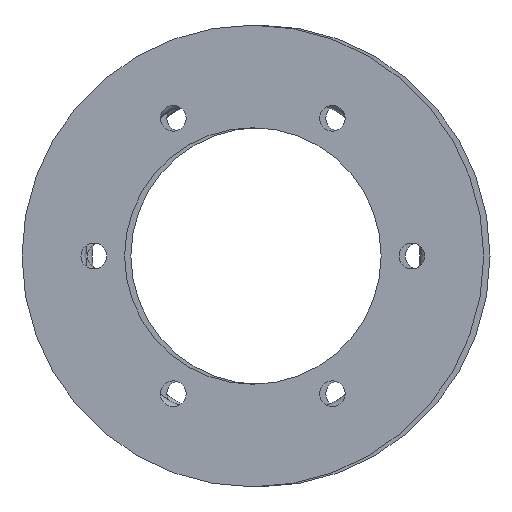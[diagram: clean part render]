
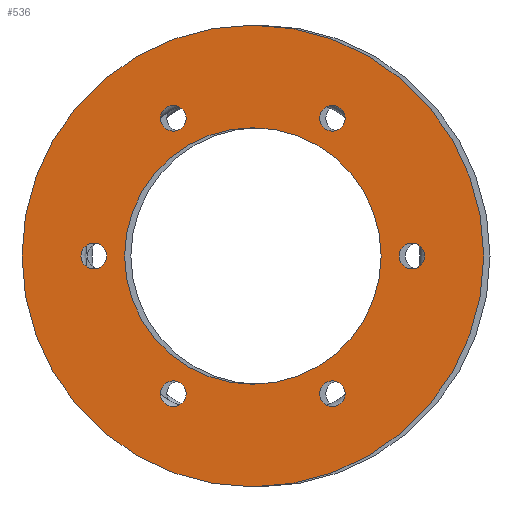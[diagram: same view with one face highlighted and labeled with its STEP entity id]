
A CAD part, left-side view. The second image highlights one B-rep face of the part: STEP entity #536.
In plain terms, the highlighted planar face has unit normal (-1, 0, 0).
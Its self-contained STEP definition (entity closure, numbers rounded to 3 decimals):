
#536 = ADVANCED_FACE( 'NONE', ( #793, #794, #795, #796, #797, #798, #799, #800 ), #801, .F. );
#793 = FACE_OUTER_BOUND( '', #915, .T. );
#794 = FACE_BOUND( '', #916, .T. );
#795 = FACE_BOUND( '', #917, .T. );
#796 = FACE_BOUND( '', #918, .T. );
#797 = FACE_BOUND( '', #919, .T. );
#798 = FACE_BOUND( '', #920, .T. );
#799 = FACE_BOUND( '', #921, .T. );
#800 = FACE_BOUND( '', #922, .T. );
#801 = PLANE( '', #923 );
#915 = EDGE_LOOP( '', ( #1083 ) );
#916 = EDGE_LOOP( '', ( #1084 ) );
#917 = EDGE_LOOP( '', ( #1085 ) );
#918 = EDGE_LOOP( '', ( #1086 ) );
#919 = EDGE_LOOP( '', ( #1087 ) );
#920 = EDGE_LOOP( '', ( #1088 ) );
#921 = EDGE_LOOP( '', ( #1089 ) );
#922 = EDGE_LOOP( '', ( #1090 ) );
#923 = AXIS2_PLACEMENT_3D( '', #1091, #1092, #1093 );
#1083 = ORIENTED_EDGE( '', *, *, #1256, .T. );
#1084 = ORIENTED_EDGE( '', *, *, #1257, .F. );
#1085 = ORIENTED_EDGE( '', *, *, #1252, .F. );
#1086 = ORIENTED_EDGE( '', *, *, #1258, .F. );
#1087 = ORIENTED_EDGE( '', *, *, #1259, .F. );
#1088 = ORIENTED_EDGE( '', *, *, #1260, .F. );
#1089 = ORIENTED_EDGE( '', *, *, #1254, .F. );
#1090 = ORIENTED_EDGE( '', *, *, #1250, .F. );
#1091 = CARTESIAN_POINT( '', ( 0., 25., 0. ) );
#1092 = DIRECTION( '', ( 1., 0., 0. ) );
#1093 = DIRECTION( '', ( 0., 1., 0. ) );
#1250 = EDGE_CURVE( 'NONE', #1386, #1386, #1387, .T. );
#1252 = EDGE_CURVE( 'NONE', #1390, #1390, #1391, .T. );
#1254 = EDGE_CURVE( 'NONE', #1394, #1394, #1395, .T. );
#1256 = EDGE_CURVE( 'NONE', #1398, #1398, #1399, .T. );
#1257 = EDGE_CURVE( 'NONE', #1400, #1400, #1401, .T. );
#1258 = EDGE_CURVE( 'NONE', #1402, #1402, #1403, .T. );
#1259 = EDGE_CURVE( 'NONE', #1404, #1404, #1405, .T. );
#1260 = EDGE_CURVE( 'NONE', #1406, #1406, #1407, .T. );
#1386 = VERTEX_POINT( '', #1418 );
#1387 = CIRCLE( '', #1419, 2.5 );
#1390 = VERTEX_POINT( '', #1422 );
#1391 = CIRCLE( '', #1423, 2.5 );
#1394 = VERTEX_POINT( '', #1426 );
#1395 = CIRCLE( '', #1427, 2.5 );
#1398 = VERTEX_POINT( '', #1430 );
#1399 = CIRCLE( '', #1431, 45. );
#1400 = VERTEX_POINT( '', #1432 );
#1401 = CIRCLE( '', #1433, 2.5 );
#1402 = VERTEX_POINT( '', #1434 );
#1403 = CIRCLE( '', #1435, 2.5 );
#1404 = VERTEX_POINT( '', #1436 );
#1405 = CIRCLE( '', #1437, 2.5 );
#1406 = VERTEX_POINT( '', #1438 );
#1407 = CIRCLE( '', #1439, 25. );
#1418 = CARTESIAN_POINT( '', ( 0., 15.5, 29.347 ) );
#1419 = AXIS2_PLACEMENT_3D( '', #1450, #1451, #1452 );
#1422 = CARTESIAN_POINT( '', ( 0., -15.5, -24.347 ) );
#1423 = AXIS2_PLACEMENT_3D( '', #1456, #1457, #1458 );
#1426 = CARTESIAN_POINT( '', ( 0., -31., 2.5 ) );
#1427 = AXIS2_PLACEMENT_3D( '', #1462, #1463, #1464 );
#1430 = CARTESIAN_POINT( '', ( 0., 0., 45. ) );
#1431 = AXIS2_PLACEMENT_3D( '', #1468, #1469, #1470 );
#1432 = CARTESIAN_POINT( '', ( 0., -15.5, 29.347 ) );
#1433 = AXIS2_PLACEMENT_3D( '', #1471, #1472, #1473 );
#1434 = CARTESIAN_POINT( '', ( 0., 15.5, -24.347 ) );
#1435 = AXIS2_PLACEMENT_3D( '', #1474, #1475, #1476 );
#1436 = CARTESIAN_POINT( '', ( 0., 31., 2.5 ) );
#1437 = AXIS2_PLACEMENT_3D( '', #1477, #1478, #1479 );
#1438 = CARTESIAN_POINT( '', ( 0., 0., 25. ) );
#1439 = AXIS2_PLACEMENT_3D( '', #1480, #1481, #1482 );
#1450 = CARTESIAN_POINT( '', ( 0., 15.5, 26.847 ) );
#1451 = DIRECTION( '', ( -1., 0., 0. ) );
#1452 = DIRECTION( '', ( 0., 0., 1. ) );
#1456 = CARTESIAN_POINT( '', ( 0., -15.5, -26.847 ) );
#1457 = DIRECTION( '', ( -1., 0., 0. ) );
#1458 = DIRECTION( '', ( 0., 0., 1. ) );
#1462 = CARTESIAN_POINT( '', ( 0., -31., 0. ) );
#1463 = DIRECTION( '', ( -1., 0., 0. ) );
#1464 = DIRECTION( '', ( 0., 0., 1. ) );
#1468 = CARTESIAN_POINT( '', ( 0., 0., 0. ) );
#1469 = DIRECTION( '', ( -1., 0., 0. ) );
#1470 = DIRECTION( '', ( 0., 0., 1. ) );
#1471 = CARTESIAN_POINT( '', ( 0., -15.5, 26.847 ) );
#1472 = DIRECTION( '', ( -1., 0., 0. ) );
#1473 = DIRECTION( '', ( 0., 0., 1. ) );
#1474 = CARTESIAN_POINT( '', ( 0., 15.5, -26.847 ) );
#1475 = DIRECTION( '', ( -1., 0., 0. ) );
#1476 = DIRECTION( '', ( 0., 0., 1. ) );
#1477 = CARTESIAN_POINT( '', ( 0., 31., 0. ) );
#1478 = DIRECTION( '', ( -1., 0., 0. ) );
#1479 = DIRECTION( '', ( 0., 0., 1. ) );
#1480 = CARTESIAN_POINT( '', ( 0., 0., 0. ) );
#1481 = DIRECTION( '', ( -1., 0., 0. ) );
#1482 = DIRECTION( '', ( 0., 0., 1. ) );
